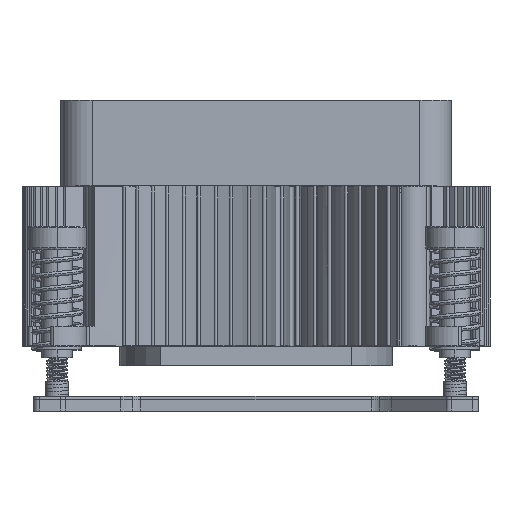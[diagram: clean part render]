
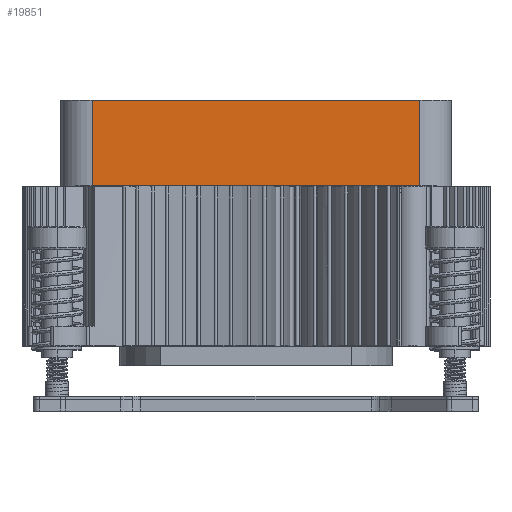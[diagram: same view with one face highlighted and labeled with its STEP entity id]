
A CAD part, top view. The second image highlights one B-rep face of the part: STEP entity #19851.
In plain terms, the highlighted planar face has unit normal (0, 0, 1) as drawn and (-1, 0, 0) by its records, which use the part's own axes.
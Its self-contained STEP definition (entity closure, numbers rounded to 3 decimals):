
#17920=DIRECTION('',(0.,-1.,0.));
#17921=VECTOR('',#17920,42.);
#17922=CARTESIAN_POINT('',(-25.,21.,5.5));
#17923=LINE('',#17922,#17921);
#18104=DIRECTION('',(0.,0.,1.));
#18105=VECTOR('',#18104,11.);
#18106=CARTESIAN_POINT('',(-25.,21.,-5.5));
#18107=LINE('',#18106,#18105);
#18108=DIRECTION('',(0.,-1.,0.));
#18109=VECTOR('',#18108,42.);
#18110=CARTESIAN_POINT('',(-25.,21.,-5.5));
#18111=LINE('',#18110,#18109);
#18112=DIRECTION('',(0.,0.,-1.));
#18113=VECTOR('',#18112,11.);
#18114=CARTESIAN_POINT('',(-25.,-21.,5.5));
#18115=LINE('',#18114,#18113);
#18820=CARTESIAN_POINT('',(-25.,21.,-5.5));
#18821=CARTESIAN_POINT('',(-25.,-21.,-5.5));
#18822=VERTEX_POINT('',#18820);
#18823=VERTEX_POINT('',#18821);
#18861=CARTESIAN_POINT('',(-25.,21.,5.5));
#18863=VERTEX_POINT('',#18861);
#18907=CARTESIAN_POINT('',(-25.,-21.,5.5));
#18908=VERTEX_POINT('',#18907);
#19839=CARTESIAN_POINT('',(-25.,21.,-5.3));
#19840=DIRECTION('',(-1.,0.,0.));
#19841=DIRECTION('',(0.,0.,1.));
#19842=AXIS2_PLACEMENT_3D('',#19839,#19840,#19841);
#19843=PLANE('',#19842);
#19844=ORIENTED_EDGE('',*,*,#19294,.F.);
#19845=ORIENTED_EDGE('',*,*,#19834,.T.);
#19846=ORIENTED_EDGE('',*,*,#19617,.T.);
#19848=ORIENTED_EDGE('',*,*,#19847,.T.);
#19849=EDGE_LOOP('',(#19844,#19845,#19846,#19848));
#19850=FACE_OUTER_BOUND('',#19849,.F.);
#19851=ADVANCED_FACE('',(#19850),#19843,.T.);
#19294=EDGE_CURVE('',#18822,#18823,#18111,.T.);
#19617=EDGE_CURVE('',#18863,#18908,#17923,.T.);
#19834=EDGE_CURVE('',#18822,#18863,#18107,.T.);
#19847=EDGE_CURVE('',#18908,#18823,#18115,.T.);
